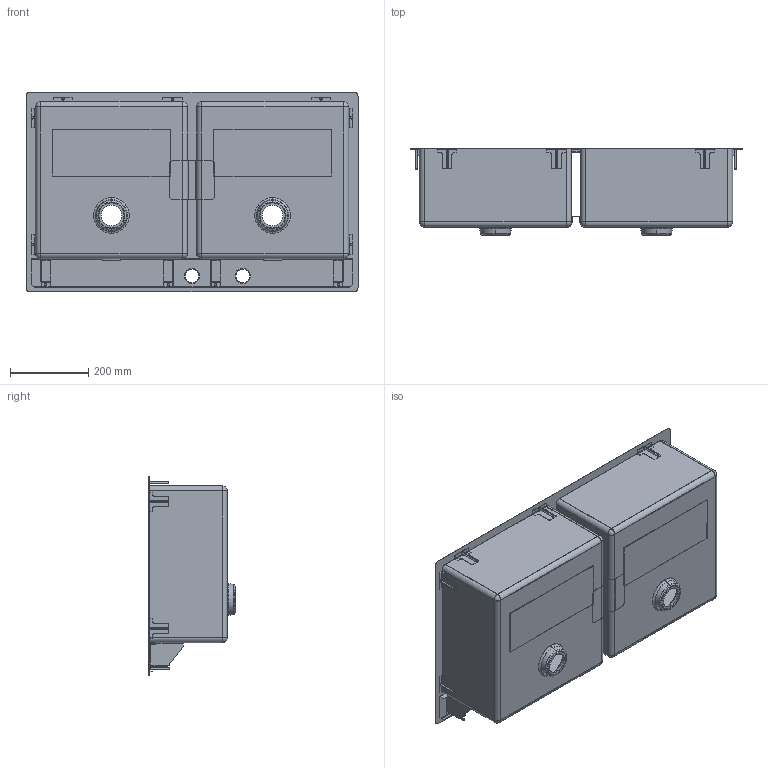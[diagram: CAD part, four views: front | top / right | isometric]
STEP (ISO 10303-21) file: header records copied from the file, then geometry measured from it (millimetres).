
FILE_DESCRIPTION (( 'STEP AP203' ), '1' );
FILE_NAME ('Matra Mix 85x51 2v automatica.STEP', '2021-01-27T13:06:35', ( 'Utente Windows' ), ( '' ), 'SwSTEP 2.0', 'SolidWorks 2020', '' );
FILE_SCHEMA (( 'CONFIG_CONTROL_DESIGN' ));
Length unit declared in the file: millimetre
Products named in the file (20): Matra Mix 85x51 2v automatica; Ass. GB17P6; Ass. RC11SV_SX - RC12; RC16 piegato; TF13 - smorzante 300x120x1,8; RC11SV_DX - RC11; RC23B - D8040_Piegato; GB17P1 - base gancio_Piegato; GB17P4 - inserto filettato M5; Ass. RC11SV_DX - RC11; Matra - piletta integrata_MIX 85x51 2v 2f SMEG; RC11SV_SX - RC12
Assembly tree (38 placements, depth 3):
  Matra Mix 85x51 2v automatica
    Matra - piletta integrata_MIX 85x51 2v 2f SMEG
    Ass. RC11SV_DX - RC11
      RC11SV_DX - RC11
      GB17P4 - inserto filettato M5
    Ass. RC11SV_SX - RC12
      RC11SV_SX - RC12
      GB17P4 - inserto filettato M5
    Ass. GB17P6
      GB17P1 - base gancio_Piegato
      GB17P4 - inserto filettato M5
    Ass. GB17P6
      GB17P1 - base gancio_Piegato
      GB17P4 - inserto filettato M5
    Ass. GB17P6
      GB17P1 - base gancio_Piegato
      GB17P4 - inserto filettato M5
    TF13 - smorzante 300x120x1,8  x2
    RC16 piegato
    RC23B - D8040_Piegato
    Ass. RC11SV_SX - RC12
      RC11SV_SX - RC12
      GB17P4 - inserto filettato M5
    Ass. RC11SV_DX - RC11
      RC11SV_DX - RC11
      GB17P4 - inserto filettato M5
    Ass. GB17P6
      GB17P1 - base gancio_Piegato
      GB17P4 - inserto filettato M5
    Ass. GB17P6
      GB17P1 - base gancio_Piegato
      GB17P4 - inserto filettato M5
    Ass. GB17P6
      GB17P1 - base gancio_Piegato
      GB17P4 - inserto filettato M5
    Ass. GB17P6
      GB17P1 - base gancio_Piegato
      GB17P4 - inserto filettato M5
Bounding box: 850 x 221.9 x 510 mm (x, y, z)
Volume: 1210000.9 mm3; surface area: 2512593 mm2
Topology: 27 solids, 27 shells, 801 faces, 1964 edges, 1208 vertices
Faces by surface type: plane 433, cylinder 282, cone 40, torus 16, sphere 16, bspline 14
Entity records: 17018 total; most frequent: CARTESIAN_POINT 2695, DIRECTION 2590, ORIENTED_EDGE 2384, EDGE_CURVE 1192, AXIS2_PLACEMENT_3D 933, VERTEX_POINT 736, VECTOR 724, LINE 724
